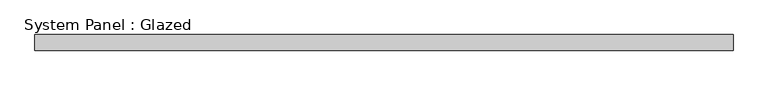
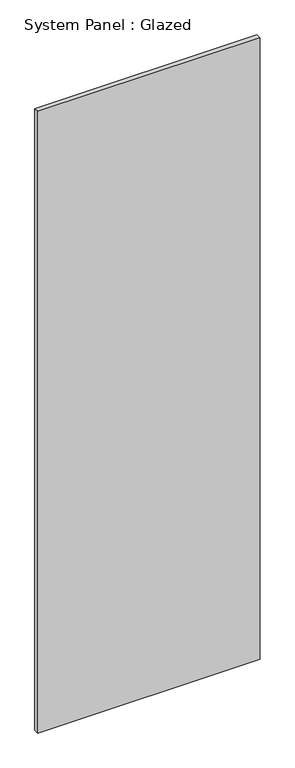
"""IFC4 building model written with IfcOpenShell, lengths in millimetres: plate geometry, System Panel : Glazed."""

import ifcopenshell
import ifcopenshell.guid

model = None  # the IFC model being written
_history = None  # IfcOwnerHistory: only IFC2X3 demands one
_inside = {}  # id of a spatial element -> (the spatial element, [elements in it])
_under = {}  # id of a project, library or spatial element -> (it, [spatial elements below it])
_declared = {}  # id of a project -> (the project, [libraries it declares])
_typed = {}  # id of a type object -> (the type object, [elements of that type])
_made_of = {}  # id of a material, layer set ... -> (it, [elements and type objects made of it])


def new_model(schema):
    """Start an empty IFC model of exactly this schema.

    Asked for "IFC4X3", IfcOpenShell would pick the latest addendum, in which some entities
    have other attributes; the version numbers below select the first issue.
    IFC2X3 requires an IfcOwnerHistory on every rooted entity: one is made here for all.
    """
    global model, _history
    if schema == "IFC4X3":
        model = ifcopenshell.file(schema_version=(4, 3, 0, 0))
    else:
        model = ifcopenshell.file(schema=schema)
    _inside.clear()
    _under.clear()
    _declared.clear()
    _typed.clear()
    _made_of.clear()
    _history = None
    if model.schema == "IFC2X3":
        org = make("IfcOrganization", Name="unknown")
        user = make(
            "IfcPersonAndOrganization",
            ThePerson=make("IfcPerson", FamilyName="unknown"),
            TheOrganization=org,
        )
        app = make(
            "IfcApplication",
            ApplicationDeveloper=org,
            Version="unknown",
            ApplicationFullName="unknown",
            ApplicationIdentifier="unknown",
        )
        _history = make(
            "IfcOwnerHistory",
            OwningUser=user,
            OwningApplication=app,
            ChangeAction="ADDED",
            CreationDate=0,
        )
    return model


def make(cls, **values):
    """One entity of the class cls with the attributes given. An attribute that is None is left unset."""
    return model.create_entity(
        cls, **{name: value for name, value in values.items() if value is not None}
    )


def rooted(cls, **values):
    """An entity with a GlobalId (a new one), such as an element, a storey or a relation."""
    return make(cls, GlobalId=ifcopenshell.guid.new(), OwnerHistory=_history, **values)


def si_unit(unit_type, name, prefix=None):
    """IfcSIUnit, for example si_unit("LENGTHUNIT", "METRE", prefix="MILLI")."""
    return make("IfcSIUnit", UnitType=unit_type, Prefix=prefix, Name=name)


def assignment(units):
    """IfcUnitAssignment: the units of a project."""
    return None if units is None else make("IfcUnitAssignment", Units=units)


def point(xyz):
    """IfcCartesianPoint."""
    return None if xyz is None else make("IfcCartesianPoint", Coordinates=xyz)


def direction(xyz):
    """IfcDirection."""
    return None if xyz is None else make("IfcDirection", DirectionRatios=xyz)


def frame(location, z_axis=None, x_axis=None):
    """IfcAxis2Placement3D, a coordinate frame: its origin and axes. An axis left out is left unset."""
    return make(
        "IfcAxis2Placement3D",
        Location=point(location),
        Axis=direction(z_axis),
        RefDirection=direction(x_axis),
    )


def origin():
    """The frame at (0, 0, 0) with its axes left unset."""
    return frame((0.0, 0.0, 0.0))


def origin_with_axes():
    """The frame at (0, 0, 0) with the z axis (0, 0, 1) and the x axis (1, 0, 0) written out."""
    return frame((0.0, 0.0, 0.0), z_axis=(0.0, 0.0, 1.0), x_axis=(1.0, 0.0, 0.0))


def place(relative_to, where):
    """IfcLocalPlacement: puts the frame where relative to a parent placement (None: the world)."""
    return make(
        "IfcLocalPlacement", PlacementRelTo=relative_to, RelativePlacement=where
    )


def context(
    kind, dimensions, precision=None, world=None, true_north=None, identifier=None
):
    """IfcGeometricRepresentationContext, for example the 3D "Model" context."""
    return make(
        "IfcGeometricRepresentationContext",
        ContextIdentifier=identifier,
        ContextType=kind,
        CoordinateSpaceDimension=dimensions,
        Precision=precision,
        WorldCoordinateSystem=world,
        TrueNorth=true_north,
    )


def project(units=None, contexts=None):
    """IfcProject with its units and contexts."""
    return rooted(
        "IfcProject",
        Name="project",
        RepresentationContexts=contexts,
        UnitsInContext=assignment(units),
    )


def spatial(cls, under=None, at=None, **own):
    """A site, building, storey or space (cls), placed at a placement, below another one or the project."""
    s = rooted(cls, ObjectPlacement=at, **own)
    if under is not None:
        _under.setdefault(under.id(), (under, []))[1].append(s)
    return s


def polyline(points):
    """IfcPolyline through the points."""
    return make("IfcPolyline", Points=[point(p) for p in points])


def outline(outer, holes=None, kind="AREA"):
    """IfcArbitraryClosedProfileDef: a profile drawn as a closed curve; with holes, ...WithVoids."""
    if holes is None:
        return make("IfcArbitraryClosedProfileDef", ProfileType=kind, OuterCurve=outer)
    return make(
        "IfcArbitraryProfileDefWithVoids",
        ProfileType=kind,
        OuterCurve=outer,
        InnerCurves=holes,
    )


def extrude(swept, where, along, depth):
    """IfcExtrudedAreaSolid: the profile swept, set in the frame where, extruded along a direction by depth."""
    return make(
        "IfcExtrudedAreaSolid",
        SweptArea=swept,
        Position=where,
        ExtrudedDirection=direction(along),
        Depth=depth,
    )


def shape(context_of_items, identifier, shape_type, items):
    """IfcShapeRepresentation: the items that make up one representation, for example the "Body"."""
    return make(
        "IfcShapeRepresentation",
        ContextOfItems=context_of_items,
        RepresentationIdentifier=identifier,
        RepresentationType=shape_type,
        Items=items,
    )


def source(mapping_origin, context_of_items, identifier, shape_type, items):
    """IfcRepresentationMap: a shape defined once, which mapped items show again and again."""
    return make(
        "IfcRepresentationMap",
        MappingOrigin=mapping_origin,
        MappedRepresentation=shape(context_of_items, identifier, shape_type, items),
    )


def transform(
    local_origin,
    x_axis=None,
    y_axis=None,
    z_axis=None,
    scale=None,
    scale2=None,
    scale3=None,
    uniform=True,
):
    """IfcCartesianTransformationOperator3D, or its non-uniform kind. x_axis, y_axis, z_axis: its Axis1, 2, 3."""
    if uniform:
        return make(
            "IfcCartesianTransformationOperator3D",
            Axis1=direction(x_axis),
            Axis2=direction(y_axis),
            LocalOrigin=point(local_origin),
            Scale=scale,
            Axis3=direction(z_axis),
        )
    return make(
        "IfcCartesianTransformationOperator3DnonUniform",
        Axis1=direction(x_axis),
        Axis2=direction(y_axis),
        LocalOrigin=point(local_origin),
        Scale=scale,
        Axis3=direction(z_axis),
        Scale2=scale2,
        Scale3=scale3,
    )


def mapped(mapping_source, mapping_target):
    """IfcMappedItem: shows the shape of a source again, moved by a transform."""
    return make(
        "IfcMappedItem", MappingSource=mapping_source, MappingTarget=mapping_target
    )


def made_of(thing, what):
    """Note that an element or type object is made of a material, layer set ...; save() writes the relation."""
    if what is not None:
        _made_of.setdefault(what.id(), (what, []))[1].append(thing)
    return thing


def element(
    cls,
    number,
    at=None,
    inside=None,
    cuts=None,
    type_object=None,
    material=None,
    context=None,
    identifier="Body",
    shape_type=None,
    held_by="IfcProductDefinitionShape",
    body=None,
    shapes=None,
    **own,
):
    """One element of the class cls, such as IfcWall. Its Tag is "e" and its number.

    at: its placement. inside: the storey or other place that contains it. cuts: it is an
    opening in that element (IfcRelVoidsElement). A single representation is given by context,
    identifier, shape_type and body (its items); several are given by shapes. held_by: the class
    of the entity that holds the representations. save() writes the other relations.
    """
    e = rooted(cls, Tag="e%d" % number, ObjectPlacement=at, **own)
    if body is not None:
        shapes = [shape(context, identifier, shape_type, body)]
    if shapes is not None:
        e.Representation = make(held_by, Representations=shapes)
    if inside is not None:
        _inside.setdefault(inside.id(), (inside, []))[1].append(e)
    if cuts is not None:
        rooted(
            "IfcRelVoidsElement", RelatingBuildingElement=cuts, RelatedOpeningElement=e
        )
    if type_object is not None:
        _typed.setdefault(type_object.id(), (type_object, []))[1].append(e)
    return made_of(e, material)


def aggregate(whole, parts):
    """IfcRelAggregates: a whole, such as a stair, and the parts it consists of."""
    return rooted("IfcRelAggregates", RelatingObject=whole, RelatedObjects=parts)


def save(model, path):
    """Write the relations noted so far, then the file.

    IfcRelAggregates (storeys below a building ...), IfcRelContainedInSpatialStructure (elements
    in a storey), IfcRelDefinesByType, IfcRelAssociatesMaterial and IfcRelDeclares: one each for
    every whole, place, type object, material and project.
    """
    for whole, parts in _under.values():
        aggregate(whole, parts)
    for where, things in _inside.values():
        rooted(
            "IfcRelContainedInSpatialStructure",
            RelatedElements=things,
            RelatingStructure=where,
        )
    for kind, things in _typed.values():
        rooted("IfcRelDefinesByType", RelatedObjects=things, RelatingType=kind)
    for what, things in _made_of.values():
        rooted("IfcRelAssociatesMaterial", RelatedObjects=things, RelatingMaterial=what)
    for by, libraries in _declared.values():
        rooted("IfcRelDeclares", RelatingContext=by, RelatedDefinitions=libraries)
    model.write(path)


def system_panel_glazed_f8538ccb(model_context):
    return source(origin(), model_context, "Body", "SweptSolid", [
        extrude(outline(polyline([(551.3747861, -12.5), (-551.3747861, -12.5), (-551.3747861, 12.5), (551.3747861, 12.5), (551.3747861, -12.5)])), origin_with_axes(), (0.0, 0.0, 1.0), 3259.3032525),
    ])


if __name__ == "__main__":
    model = new_model("IFC4")
    model_context = context("Model", 3, world=origin())
    ifc_project = project(units=[si_unit("LENGTHUNIT", "METRE", prefix="MILLI")], contexts=[model_context])
    site = spatial("IfcSite", under=ifc_project)
    building = spatial("IfcBuilding", under=site)
    placement = place(None, origin())
    system_panel_glazed_shape = system_panel_glazed_f8538ccb(model_context)
    element("IfcPlate", 1, ObjectType="System Panel : Glazed", at=placement, inside=building, context=model_context, shape_type="MappedRepresentation", body=[
        mapped(system_panel_glazed_shape, transform((0.0, 0.0, 0.0), x_axis=(1.0, 0.0, 0.0), y_axis=(0.0, 1.0, 0.0), z_axis=(0.0, 0.0, 1.0))),
    ])
    save(model, "model.ifc")
